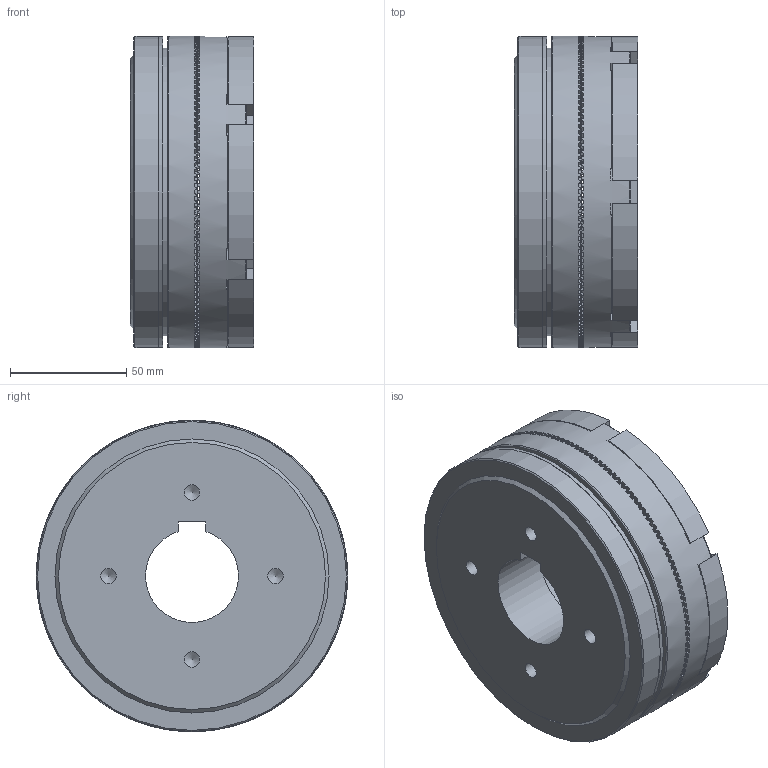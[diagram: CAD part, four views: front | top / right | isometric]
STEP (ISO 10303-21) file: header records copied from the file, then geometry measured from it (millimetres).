
FILE_DESCRIPTION(/* description */ ('','CAx-IF Rec.Pracs.---Representation and Presentation of Product Manufacturing Information (PMI)---4.0---2014-10-13'),/* implementation_level */ '2;1');
FILE_NAME(/* name */ 'X:\INVENTOR\DISEGNI\07_Innesti_Elettmag_a_Dentini\07_01 EC_Z\07_01_134_01 EC134_Z\07_01_134_01 EC134_Z-F40@STEP.stp',/* time_stamp */ '2018-01-12T14:42:03+01:00',/* author */ ('stefano'),/* organization */ (''),/* preprocessor_version */ 'ST-DEVELOPER v17',/* originating_system */ 'Autodesk Inventor 2018',/* authorisation */ '');
FILE_SCHEMA (('AP242_MANAGED_MODEL_BASED_3D_ENGINEERING_MIM_LF { 1 0 10303 442 1 1 4 }'));
Length unit declared in the file: millimetre
Products named in the file (1): 07_01_134_01 EC134_Z_Substitute_1
Bounding box: 53.1 x 134 x 134 mm (x, y, z)
Volume: 597342.3 mm3; surface area: 99961.7 mm2
Topology: 2 solids, 2 shells, 1411 faces, 4179 edges, 2775 vertices
Faces by surface type: plane 1324, cylinder 65, cone 20, torus 2
Full cylindrical faces by diameter (mm): 4.134 x3, 6.647 x4, 7 x3, 8 x3, 12 x3, 13 x3, 60 x1, 62 x1, 63 x1, 85 x1, 105 x1, 120 x2, 123 x1, 124 x3, 133.5 x1, 134 x3
Entity records: 48915 total; most frequent: DIRECTION 9520, CARTESIAN_POINT 8578, ORIENTED_EDGE 8350, EDGE_CURVE 4175, AXIS2_PLACEMENT_3D 3957, VERTEX_POINT 2775, ELLIPSE 1730, LINE 1606
